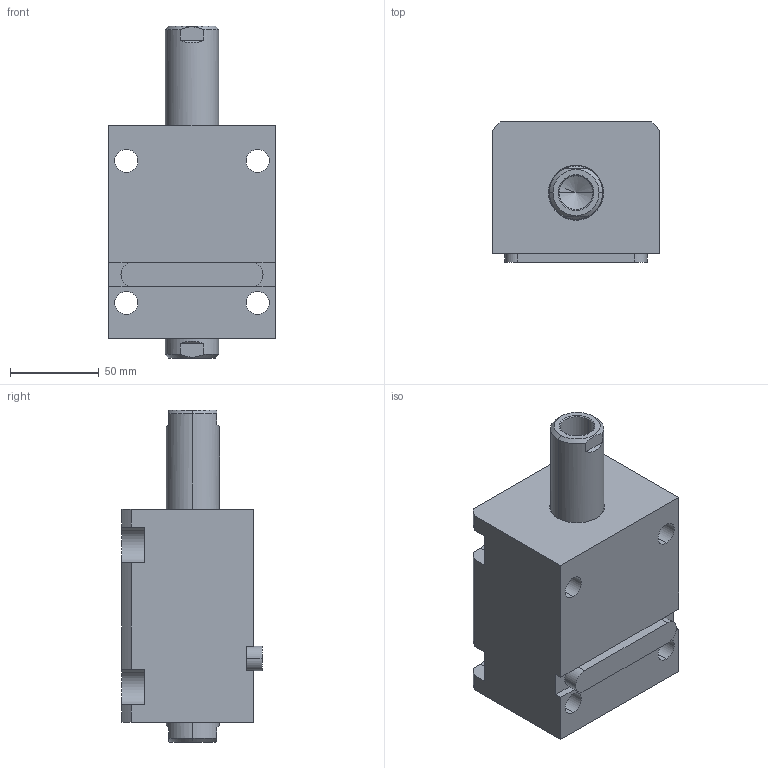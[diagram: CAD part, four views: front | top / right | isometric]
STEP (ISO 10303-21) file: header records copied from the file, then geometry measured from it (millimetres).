
FILE_DESCRIPTION (( 'STEP AP203' ), '1' );
FILE_NAME ('CHTB-LW50-45N.STEP', '2018-05-18T07:45:08', ( '' ), ( '' ), 'SwSTEP 2.0', 'SolidWorks 2015', '' );
FILE_SCHEMA (( 'CONFIG_CONTROL_DESIGN' ));
Length unit declared in the file: millimetre
Products named in the file (4): 掛极LW50-45N; CHTM-SDMA50QG; CHTB-LW50-45N; 活塞杆LW50-45N
Assembly tree (3 placements, depth 2):
  CHTB-LW50-45N
    掛极LW50-45N
    活塞杆LW50-45N
    CHTM-SDMA50QG
Bounding box: 94 x 79 x 187 mm (x, y, z)
Volume: 752403.2 mm3; surface area: 124588.9 mm2
Topology: 3 solids, 3 shells, 221 faces, 588 edges, 385 vertices
Faces by surface type: cylinder 102, plane 58, cone 31, torus 16, bspline 14
Entity records: 11831 total; most frequent: CARTESIAN_POINT 6126, ORIENTED_EDGE 1160, DIRECTION 1056, EDGE_CURVE 580, AXIS2_PLACEMENT_3D 416, VERTEX_POINT 385, EDGE_LOOP 257, LINE 224
